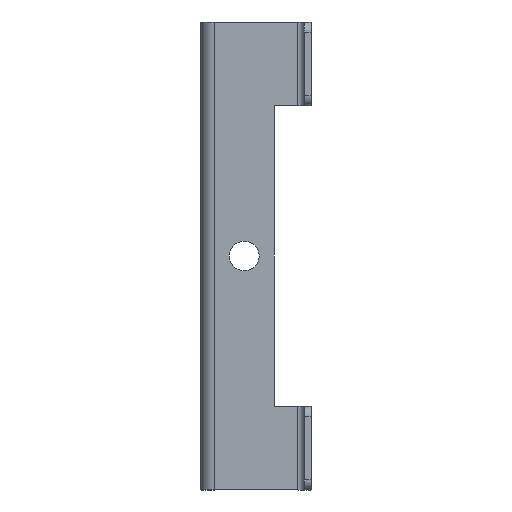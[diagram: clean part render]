
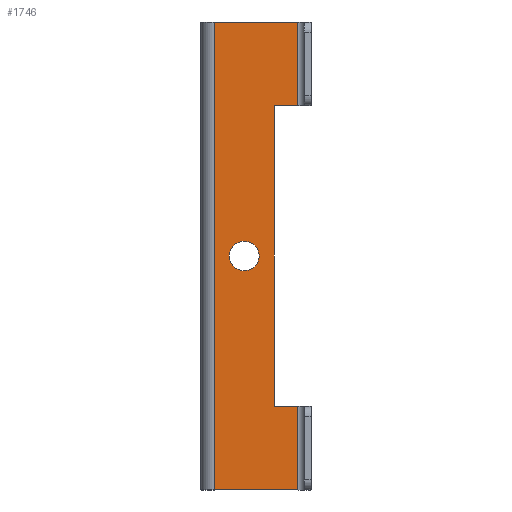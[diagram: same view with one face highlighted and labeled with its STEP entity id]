
A CAD part, left-side view. The second image highlights one B-rep face of the part: STEP entity #1746.
In plain terms, the highlighted planar face has unit normal (-1, 0, 0).
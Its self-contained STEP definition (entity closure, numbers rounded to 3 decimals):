
#37 = CARTESIAN_POINT ( 'NONE',  ( -200., -13., 4.45 ) ) ;
#147 = EDGE_CURVE ( 'NONE', #1045, #643, #595, .T. ) ;
#158 = DIRECTION ( 'NONE',  ( 0., 1., 0. ) ) ;
#184 = VECTOR ( 'NONE', #1693, 1000. ) ;
#240 = VECTOR ( 'NONE', #3613, 1000. ) ;
#288 = DIRECTION ( 'NONE',  ( 0., 0., -1. ) ) ;
#349 = EDGE_LOOP ( 'NONE', ( #421 ) ) ;
#351 = ORIENTED_EDGE ( 'NONE', *, *, #4025, .F. ) ;
#407 = CARTESIAN_POINT ( 'NONE',  ( -200., -22., -45. ) ) ;
#421 = ORIENTED_EDGE ( 'NONE', *, *, #2650, .F. ) ;
#422 = VERTEX_POINT ( 'NONE', #3786 ) ;
#484 = CARTESIAN_POINT ( 'NONE',  ( -200., -2., -70. ) ) ;
#595 = LINE ( 'NONE', #837, #2979 ) ;
#640 = CARTESIAN_POINT ( 'NONE',  ( -200., -29., 70. ) ) ;
#643 = VERTEX_POINT ( 'NONE', #4068 ) ;
#647 = VERTEX_POINT ( 'NONE', #1762 ) ;
#672 = CARTESIAN_POINT ( 'NONE',  ( -200., -4., 0. ) ) ;
#827 = VERTEX_POINT ( 'NONE', #3374 ) ;
#829 = EDGE_CURVE ( 'NONE', #643, #647, #2718, .T. ) ;
#837 = CARTESIAN_POINT ( 'NONE',  ( -200., -29., 70. ) ) ;
#901 = CARTESIAN_POINT ( 'NONE',  ( -200., 0., 0. ) ) ;
#913 = ORIENTED_EDGE ( 'NONE', *, *, #3642, .F. ) ;
#1045 = VERTEX_POINT ( 'NONE', #1183 ) ;
#1047 = LINE ( 'NONE', #640, #2684 ) ;
#1071 = DIRECTION ( 'NONE',  ( 0., 1., 0. ) ) ;
#1114 = FACE_OUTER_BOUND ( 'NONE', #1374, .T. ) ;
#1125 = EDGE_CURVE ( 'NONE', #1587, #422, #2811, .T. ) ;
#1183 = CARTESIAN_POINT ( 'NONE',  ( -200., -29., 70. ) ) ;
#1312 = DIRECTION ( 'NONE',  ( 0., 0., -1. ) ) ;
#1374 = EDGE_LOOP ( 'NONE', ( #2461, #913, #3012, #1961, #1659, #1534, #2263, #351 ) ) ;
#1482 = CARTESIAN_POINT ( 'NONE',  ( -200., -13., 0. ) ) ;
#1534 = ORIENTED_EDGE ( 'NONE', *, *, #3025, .T. ) ;
#1546 = DIRECTION ( 'NONE',  ( 0., -1., 0. ) ) ;
#1587 = VERTEX_POINT ( 'NONE', #2463 ) ;
#1659 = ORIENTED_EDGE ( 'NONE', *, *, #2176, .F. ) ;
#1690 = CIRCLE ( 'NONE', #2374, 4.45 ) ;
#1693 = DIRECTION ( 'NONE',  ( 0., 0., -1. ) ) ;
#1695 = DIRECTION ( 'NONE',  ( 0., 0., 1. ) ) ;
#1746 = ADVANCED_FACE ( 'NONE', ( #4088, #1114 ), #3762, .T. ) ;
#1762 = CARTESIAN_POINT ( 'NONE',  ( -200., -22., 45. ) ) ;
#1961 = ORIENTED_EDGE ( 'NONE', *, *, #147, .F. ) ;
#2010 = VECTOR ( 'NONE', #1071, 1000. ) ;
#2021 = VERTEX_POINT ( 'NONE', #37 ) ;
#2047 = VERTEX_POINT ( 'NONE', #3743 ) ;
#2176 = EDGE_CURVE ( 'NONE', #2047, #1045, #2975, .T. ) ;
#2210 = DIRECTION ( 'NONE',  ( -1., 0., 0. ) ) ;
#2263 = ORIENTED_EDGE ( 'NONE', *, *, #1125, .F. ) ;
#2328 = LINE ( 'NONE', #3027, #240 ) ;
#2374 = AXIS2_PLACEMENT_3D ( 'NONE', #1482, #3659, #1695 ) ;
#2382 = DIRECTION ( 'NONE',  ( 0., -1., 0. ) ) ;
#2461 = ORIENTED_EDGE ( 'NONE', *, *, #2682, .F. ) ;
#2463 = CARTESIAN_POINT ( 'NONE',  ( -200., -29., -70. ) ) ;
#2650 = EDGE_CURVE ( 'NONE', #2021, #2021, #1690, .T. ) ;
#2652 = CARTESIAN_POINT ( 'NONE',  ( -200., -33., 70. ) ) ;
#2682 = EDGE_CURVE ( 'NONE', #2737, #827, #2328, .T. ) ;
#2684 = VECTOR ( 'NONE', #1312, 1000. ) ;
#2718 = LINE ( 'NONE', #4040, #2010 ) ;
#2737 = VERTEX_POINT ( 'NONE', #407 ) ;
#2811 = LINE ( 'NONE', #484, #3113 ) ;
#2957 = LINE ( 'NONE', #3932, #184 ) ;
#2975 = LINE ( 'NONE', #2652, #4109 ) ;
#2979 = VECTOR ( 'NONE', #4244, 1000. ) ;
#3012 = ORIENTED_EDGE ( 'NONE', *, *, #829, .F. ) ;
#3025 = EDGE_CURVE ( 'NONE', #2047, #422, #3984, .T. ) ;
#3027 = CARTESIAN_POINT ( 'NONE',  ( -200., 0., -45. ) ) ;
#3113 = VECTOR ( 'NONE', #158, 1000. ) ;
#3141 = VECTOR ( 'NONE', #288, 1000. ) ;
#3374 = CARTESIAN_POINT ( 'NONE',  ( -200., -29., -45. ) ) ;
#3613 = DIRECTION ( 'NONE',  ( 0., -1., 0. ) ) ;
#3642 = EDGE_CURVE ( 'NONE', #647, #2737, #2957, .T. ) ;
#3659 = DIRECTION ( 'NONE',  ( -1., 0., 0. ) ) ;
#3743 = CARTESIAN_POINT ( 'NONE',  ( -200., -4., 70. ) ) ;
#3762 = PLANE ( 'NONE',  #3898 ) ;
#3786 = CARTESIAN_POINT ( 'NONE',  ( -200., -4., -70. ) ) ;
#3898 = AXIS2_PLACEMENT_3D ( 'NONE', #901, #2210, #1546 ) ;
#3932 = CARTESIAN_POINT ( 'NONE',  ( -200., -22., 0. ) ) ;
#3984 = LINE ( 'NONE', #672, #3141 ) ;
#4025 = EDGE_CURVE ( 'NONE', #827, #1587, #1047, .T. ) ;
#4040 = CARTESIAN_POINT ( 'NONE',  ( -200., 0., 45. ) ) ;
#4068 = CARTESIAN_POINT ( 'NONE',  ( -200., -29., 45. ) ) ;
#4088 = FACE_BOUND ( 'NONE', #349, .T. ) ;
#4109 = VECTOR ( 'NONE', #2382, 1000. ) ;
#4244 = DIRECTION ( 'NONE',  ( 0., 0., -1. ) ) ;
